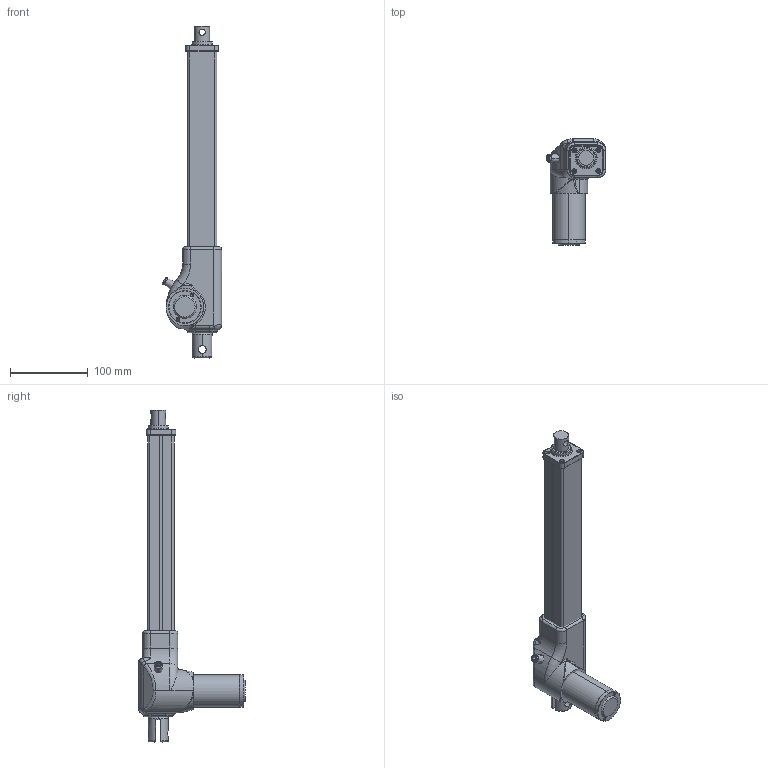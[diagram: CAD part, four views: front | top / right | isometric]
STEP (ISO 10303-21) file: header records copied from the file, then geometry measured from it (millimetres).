
FILE_DESCRIPTION((''),'2;1');
FILE_NAME('LAM2_ASM_ASM','2012-11-06T',('amyliao'),(''),'PRO/ENGINEER BY PARAMETRIC TECHNOLOGY CORPORATION, 2003210','PRO/ENGINEER BY PARAMETRIC TECHNOLOGY CORPORATION, 2003210','');
FILE_SCHEMA(('CONFIG_CONTROL_DESIGN'));
Length unit declared in the file: millimetre
Products named in the file (5): TB; C6F001A1; 01; C6E002A1; LAM2_ASM_ASM
Assembly tree (4 placements, depth 2):
  LAM2_ASM_ASM
    TB
    C6F001A1
    01
    C6E002A1
Bounding box: 76.03 x 136.5 x 426 mm (x, y, z)
Volume: 178247.8 mm3; surface area: 206477 mm2
Topology: 3 solids, 8 shells, 359 faces, 1038 edges, 686 vertices
Faces by surface type: cylinder 160, plane 99, torus 47, bspline 37, cone 14, sphere 2
Entity records: 15071 total; most frequent: CARTESIAN_POINT 5660, ORIENTED_EDGE 1970, DIRECTION 1868, EDGE_CURVE 1036, AXIS2_PLACEMENT_3D 708, VERTEX_POINT 686, VECTOR 452, LINE 452
